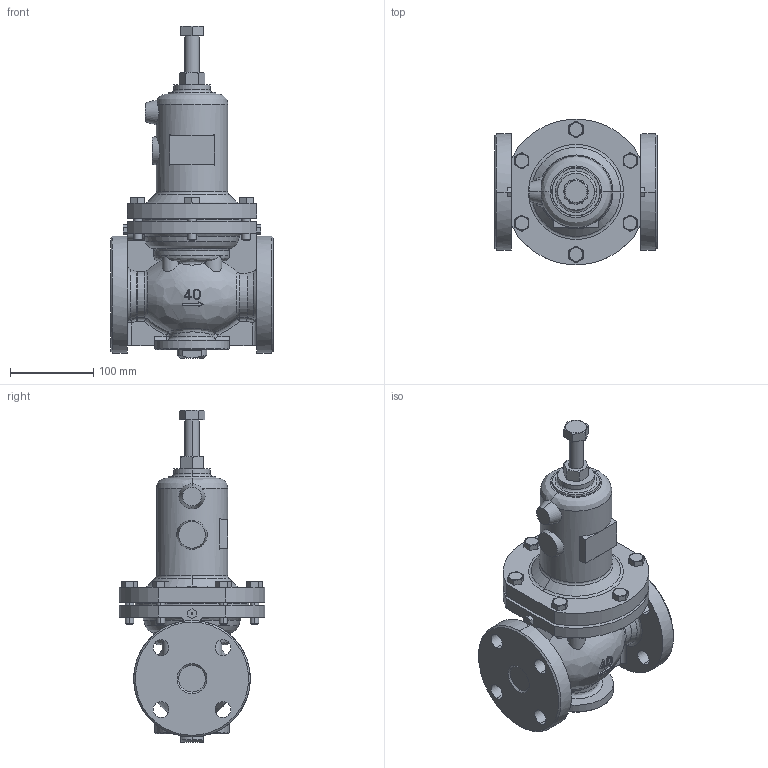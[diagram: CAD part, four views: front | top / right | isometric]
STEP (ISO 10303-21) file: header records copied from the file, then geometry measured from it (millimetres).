
FILE_DESCRIPTION( (''), '2;1');
FILE_NAME ('PC1056.10872.GD-200(40A)_7909.stp','2024-09-12T12:52:40',(''),(''),'spGate 19.8.4 (****-****-****-****)','','');
FILE_SCHEMA (('AUTOMOTIVE_DESIGN'));
Length unit declared in the file: millimetre
Products named in the file (4): Assembly; GD-200(40A)本体P; GD-200(3250)保護筒; CP_''_JIS B 1181 六角ナット 2種 上 ''_700
Assembly tree (3 placements, depth 2):
  Assembly
    GD-200(40A)本体P
    GD-200(3250)保護筒
    CP_''_JIS B 1181 六角ナット 2種 上 ''_700
Bounding box: 195 x 174.39 x 398.61 mm (x, y, z)
Volume: 3306663.7 mm3; surface area: 307708.4 mm2
Topology: 3 solids, 3 shells, 487 faces, 1225 edges, 773 vertices
Faces by surface type: plane 175, bspline 166, cylinder 135, sphere 11
Entity records: 28550 total; most frequent: CARTESIAN_POINT 8599, ORIENTED_EDGE 2434, DIRECTION 1775, COLOUR_RGB 1707, PRESENTATION_STYLE_ASSIGNMENT 1707, STYLED_ITEM 1707, EDGE_CURVE 1217, DRAUGHTING_PRE_DEFINED_CURVE_FONT 1217
